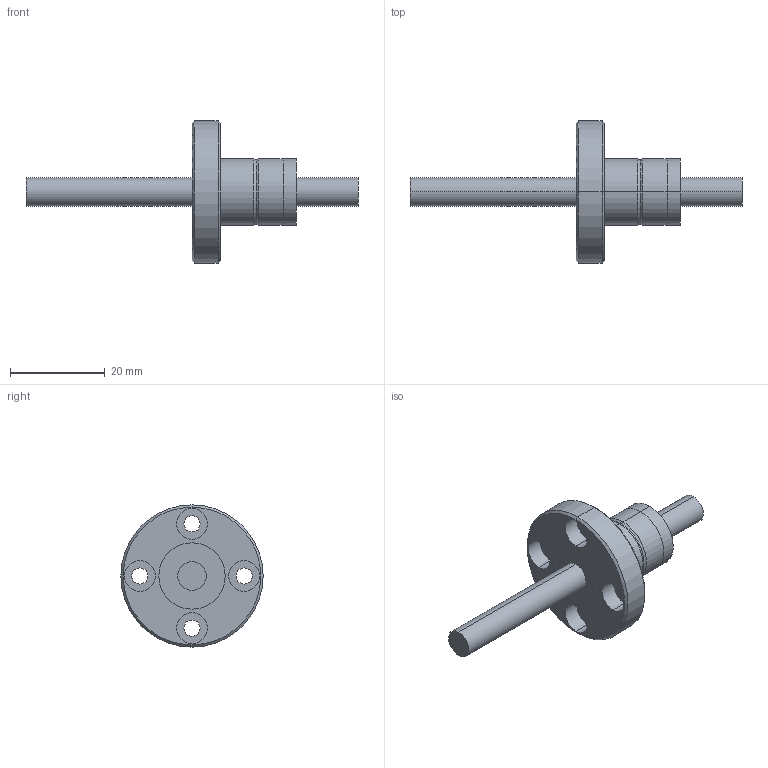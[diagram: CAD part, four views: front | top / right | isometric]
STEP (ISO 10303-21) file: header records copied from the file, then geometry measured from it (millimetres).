
FILE_DESCRIPTION (( 'STEP AP203' ), '1' );
FILE_NAME ('KLF006T3.STEP', '2023-08-17T07:19:44', ( '' ), ( '' ), 'SwSTEP 2.0', 'SolidWorks 2022', '' );
FILE_SCHEMA (( 'CONFIG_CONTROL_DESIGN' ));
Length unit declared in the file: millimetre
Products named in the file (5): 塑胶2^KLF006T3; 零件6^KLF006T3; KLF006T3; 塑胶1^KLF006T3; 主体^KLF006T3
Assembly tree (4 placements, depth 2):
  KLF006T3
    主体^KLF006T3
    塑胶1^KLF006T3
    塑胶2^KLF006T3
    零件6^KLF006T3
Bounding box: 70 x 30 x 30 mm (x, y, z)
Volume: 7473.4 mm3; surface area: 5444.8 mm2
Topology: 4 solids, 4 shells, 62 faces, 133 edges, 84 vertices
Faces by surface type: cylinder 38, plane 14, torus 6, cone 4
Entity records: 2307 total; most frequent: DIRECTION 350, CARTESIAN_POINT 340, ORIENTED_EDGE 266, AXIS2_PLACEMENT_3D 154, EDGE_CURVE 133, CIRCLE 85, VERTEX_POINT 84, EDGE_LOOP 83
